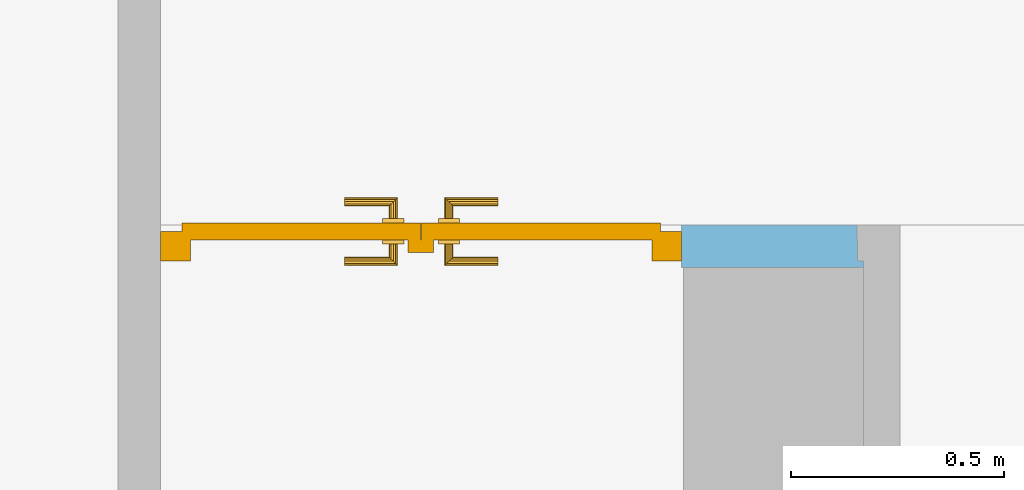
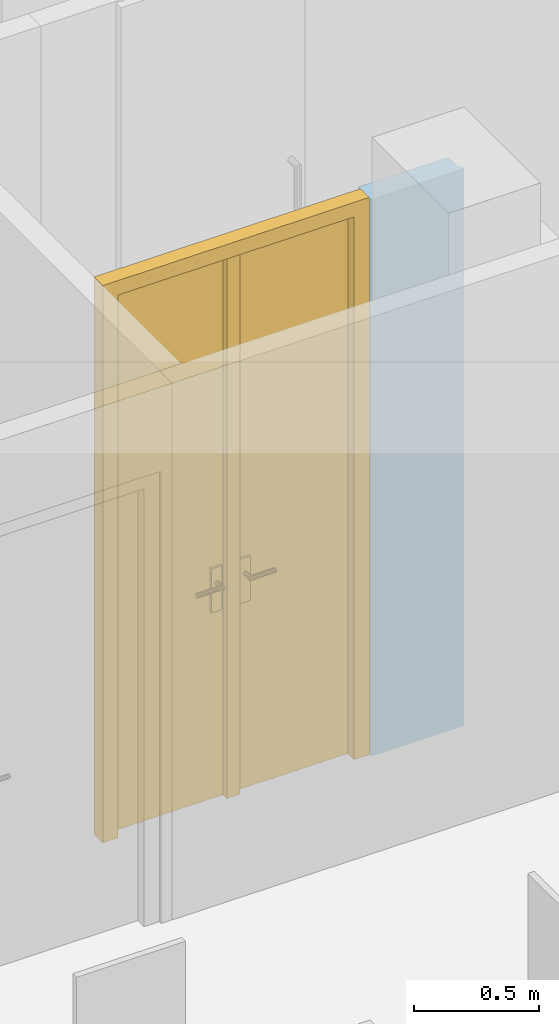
"""IFC4 building model written with IfcOpenShell, lengths in metres."""

from ifc_helpers import new_model, entity, si_unit, converted_unit, derived_unit, frame, origin, origin_with_axes, place, context, subcontext, project, spatial, polyline, outline, extrude, faceted_brep, source, transform, mapped, material, layer, layer_set, layer_usage, element, fill, save


model = new_model("IFC4")

# Units and contexts
model_context = context("Model", 3, precision=1e-05, world=origin())
body_context = subcontext(model_context, "Body", "Model", "MODEL_VIEW")
ifc_project = project(units=[si_unit("LENGTHUNIT", "METRE"), si_unit("AREAUNIT", "SQUARE_METRE"), si_unit("VOLUMEUNIT", "CUBIC_METRE"), si_unit("MASSUNIT", "GRAM", prefix="KILO"), converted_unit("PLANEANGLEUNIT", "DEGREE", entity("IfcPlaneAngleMeasure", 0.0174532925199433), si_unit("PLANEANGLEUNIT", "RADIAN"), dimensions=[0, 0, 0, 0, 0, 0, 0]), derived_unit("THERMALTRANSMITTANCEUNIT", [(si_unit("POWERUNIT", "WATT"), 1), (si_unit("THERMODYNAMICTEMPERATUREUNIT", "KELVIN"), -1), (si_unit("LENGTHUNIT", "METRE"), -2)]), derived_unit("VOLUMETRICFLOWRATEUNIT", [(si_unit("LENGTHUNIT", "METRE"), 3), (converted_unit("TIMEUNIT", "hour", entity("IfcTimeMeasure", 3600.0), si_unit("TIMEUNIT", "SECOND"), dimensions=[0, 0, 1, 0, 0, 0, 0]), -1), (si_unit("LENGTHUNIT", "METRE"), -1)])], contexts=[model_context])

# Building, storeys
building_placement = place(None, origin())
building = spatial("IfcBuilding", under=ifc_project, at=building_placement, Name="HABITATGE PLURIFAMILIAR", CompositionType="ELEMENT")
storey_1_placement = place(building_placement, frame((0.0, 0.0, 9.26)))
storey_1 = spatial("IfcBuildingStorey", under=building, at=storey_1_placement, Name="PLANTA SEGONA", CompositionType="ELEMENT", Elevation=9.26)
storey_2_placement = place(storey_1_placement, frame((0.0, 0.0, 6.25)))
storey_2 = spatial("IfcBuildingStorey", under=storey_1, at=storey_2_placement, Name="NOU", CompositionType="PARTIAL")

# Wall, opening, door
ifc_material = material()
ifc_layer = layer(ifc_material, 0.1)
ifc_layer_set = layer_set([ifc_layer])
ifc_layer_usage = layer_usage(ifc_layer_set, "AXIS2", "POSITIVE", 0.0)
wall_placement = place(storey_2_placement, frame((406.07517066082, 24.2294598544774, -6.35), z_axis=(0.0, 0.0, 1.0), x_axis=(-1.0, 0.0, 0.0)))
wall = element("IfcWall", 1, at=wall_placement, inside=storey_2, material=ifc_layer_usage, Name="Evans P2", context=body_context, shape_type="SweptSolid", body=[
    extrude(outline(polyline([(-1.63818587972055, -0.1), (0.0, -0.1), (0.0, 0.0), (-1.65348393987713, 0.0), (-1.65348393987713, -0.015804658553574), (-1.63999999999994, -0.015804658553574), (-1.63818587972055, -0.1)])), frame((1.63818587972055, 0.1, 0.0), z_axis=(0.0, 0.0, 1.0), x_axis=(1.0, 0.0, 0.0)), (0.0, 0.0, 1.0), 2.71),
])
opening_placement = place(wall_placement, frame((1.63818587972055, 0.1, 0.0), z_axis=(0.0, -1.0, 0.0), x_axis=(0.0, 0.0, 1.0)))
opening = element("IfcOpeningElement", 2, at=opening_placement, cuts=wall, Name="Vano puerta", ObjectType="Opening", context=body_context, shape_type="SweptSolid", body=[
    extrude(outline(polyline([(2.71, 1.22593513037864), (2.71, 0.0), (0.0, 0.0), (0.0, 1.22593513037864), (2.71, 1.22593513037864)])), origin_with_axes(), (0.0, 0.0, 1.0), 0.1),
])
shared_shape = source(origin_with_axes(), body_context, "Body", "Brep", [
    faceted_brep([(0.0, 0.07, 2.71), (0.0, 0.07, 0.0), (0.07, 0.07, 0.0), (0.07, 0.07, 2.71), (0.0, 0.0, 0.0), (0.0, 0.0, 2.71), (0.07, 0.0, 2.71), (0.07, 0.0, 0.0)], [[[0, 1, 2, 3]], [[4, 5, 6, 7]], [[1, 0, 5, 4]], [[2, 1, 4, 7]], [[3, 2, 7, 6]], [[0, 3, 6, 5]]], orient=[[False], [False], [False], [False], [False], [False]]),
    faceted_brep([(1.15593513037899, 0.07, 2.71), (1.15593513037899, 0.07, 0.0), (1.22593513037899, 0.07, 0.0), (1.22593513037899, 0.07, 2.71), (1.15593513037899, 0.0, 0.0), (1.15593513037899, 0.0, 2.71), (1.22593513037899, 0.0, 2.71), (1.22593513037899, 0.0, 0.0)], [[[0, 1, 2, 3]], [[4, 5, 6, 7]], [[1, 0, 5, 4]], [[2, 1, 4, 7]], [[3, 2, 7, 6]], [[0, 3, 6, 5]]], orient=[[False], [False], [False], [False], [False], [False]]),
    faceted_brep([(0.07, 0.07, 2.71), (0.07, 0.07, 2.64), (1.15593513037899, 0.07, 2.64), (1.15593513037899, 0.07, 2.71), (0.07, 0.0, 2.64), (0.07, 0.0, 2.71), (1.15593513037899, 0.0, 2.71), (1.15593513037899, 0.0, 2.64)], [[[0, 1, 2, 3]], [[4, 5, 6, 7]], [[1, 0, 5, 4]], [[2, 1, 4, 7]], [[3, 2, 7, 6]], [[0, 3, 6, 5]]], orient=[[False], [False], [False], [False], [False], [False]]),
    faceted_brep([(0.05, 0.09, 2.66), (0.05, 0.09, 0.0), (0.612467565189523, 0.09, 0.0), (0.612467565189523, 0.09, 2.66), (0.05, 0.05, 0.0), (0.05, 0.05, 2.66), (0.612467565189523, 0.05, 2.66), (0.612467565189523, 0.05, 0.0)], [[[0, 1, 2, 3]], [[4, 5, 6, 7]], [[1, 0, 5, 4]], [[2, 1, 4, 7]], [[3, 2, 7, 6]], [[0, 3, 6, 5]]], orient=[[False], [False], [False], [False], [False], [False]]),
    faceted_brep([(0.582467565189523, 0.05, 2.64), (0.582467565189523, 0.05, 0.0), (0.642467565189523, 0.05, 0.0), (0.642467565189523, 0.05, 2.64), (0.582467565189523, 0.02, 0.0), (0.582467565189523, 0.02, 2.64), (0.642467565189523, 0.02, 2.64), (0.642467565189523, 0.02, 0.0)], [[[0, 1, 2, 3]], [[4, 5, 6, 7]], [[1, 0, 5, 4]], [[2, 1, 4, 7]], [[3, 2, 7, 6]], [[0, 3, 6, 5]]], orient=[[False], [False], [False], [False], [False], [False]]),
    faceted_brep([(0.522467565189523, 0.05, 1.125), (0.522467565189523, 0.05, 0.91), (0.572467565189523, 0.05, 0.91), (0.572467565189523, 0.05, 1.125), (0.522467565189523, 0.04, 0.91), (0.522467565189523, 0.04, 1.125), (0.572467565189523, 0.04, 1.125), (0.572467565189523, 0.04, 0.91)], [[[0, 1, 2, 3]], [[4, 5, 6, 7]], [[1, 0, 5, 4]], [[2, 1, 4, 7]], [[3, 2, 7, 6]], [[0, 3, 6, 5]]], orient=[[False], [False], [False], [False], [False], [False]]),
    faceted_brep([(0.547467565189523, 0.04, 1.06), (0.542467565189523, 0.04, 1.05866025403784), (0.538807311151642, 0.04, 1.055), (0.537467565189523, 0.04, 1.05), (0.538807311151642, 0.04, 1.045), (0.542467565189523, 0.04, 1.04133974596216), (0.547467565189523, 0.04, 1.04), (0.552467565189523, 0.04, 1.04133974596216), (0.556127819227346, 0.04, 1.045), (0.557467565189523, 0.04, 1.05), (0.556127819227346, 0.04, 1.055), (0.552467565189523, 0.04, 1.05866025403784), (0.552467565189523, -0.005, 1.05866025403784), (0.547467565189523, 0.0, 1.06), (0.556127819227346, -0.00866025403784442, 1.055), (0.557467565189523, -0.01, 1.05), (0.556127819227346, -0.00866025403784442, 1.045), (0.552467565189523, -0.005, 1.04133974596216), (0.547467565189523, 0.0, 1.04), (0.542467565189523, 0.005, 1.04133974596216), (0.538807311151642, 0.00866025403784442, 1.045), (0.537467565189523, 0.01, 1.05), (0.538807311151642, 0.00866025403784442, 1.055), (0.542467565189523, 0.005, 1.05866025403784), (0.432467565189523, 0.0, 1.06), (0.432467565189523, -0.005, 1.05866025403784), (0.432467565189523, -0.00866025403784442, 1.055), (0.432467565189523, -0.01, 1.05), (0.432467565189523, -0.00866025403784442, 1.045), (0.432467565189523, -0.005, 1.04133974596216), (0.432467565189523, 0.0, 1.04), (0.432467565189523, 0.005, 1.04133974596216), (0.432467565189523, 0.00866025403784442, 1.045), (0.432467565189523, 0.01, 1.05), (0.432467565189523, 0.00866025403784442, 1.055), (0.432467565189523, 0.005, 1.05866025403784)], [[[0, 1, 2, 3, 4, 5, 6, 7, 8, 9, 10, 11]], [[0, 11, 12, 13]], [[11, 10, 14, 12]], [[10, 9, 15, 14]], [[9, 8, 16, 15]], [[8, 7, 17, 16]], [[7, 6, 18, 17]], [[6, 5, 19, 18]], [[5, 4, 20, 19]], [[4, 3, 21, 20]], [[3, 2, 22, 21]], [[2, 1, 23, 22]], [[1, 0, 13, 23]], [[24, 25, 26, 27, 28, 29, 30, 31, 32, 33, 34, 35]], [[13, 12, 25, 24]], [[12, 14, 26, 25]], [[14, 15, 27, 26]], [[15, 16, 28, 27]], [[16, 17, 29, 28]], [[17, 18, 30, 29]], [[18, 19, 31, 30]], [[19, 20, 32, 31]], [[20, 21, 33, 32]], [[21, 22, 34, 33]], [[22, 23, 35, 34]], [[23, 13, 24, 35]]], orient=[[False], [False], [False], [False], [False], [False], [False], [False], [False], [False], [False], [False], [False], [False], [False], [False], [False], [False], [False], [False], [False], [False], [False], [False], [False], [False]]),
    faceted_brep([(0.522467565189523, 0.09, 1.125), (0.572467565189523, 0.09, 1.125), (0.572467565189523, 0.09, 0.91), (0.522467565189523, 0.09, 0.91), (0.522467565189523, 0.1, 0.91), (0.572467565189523, 0.1, 0.91), (0.572467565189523, 0.1, 1.125), (0.522467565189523, 0.1, 1.125)], [[[0, 1, 2, 3]], [[4, 5, 6, 7]], [[3, 4, 7, 0]], [[2, 5, 4, 3]], [[1, 6, 5, 2]], [[0, 7, 6, 1]]], orient=[[False], [False], [False], [False], [False], [False]]),
    faceted_brep([(0.547467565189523, 0.1, 1.06), (0.552467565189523, 0.1, 1.05866025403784), (0.556127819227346, 0.1, 1.055), (0.557467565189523, 0.1, 1.05), (0.556127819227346, 0.1, 1.045), (0.552467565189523, 0.1, 1.04133974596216), (0.547467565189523, 0.1, 1.04), (0.542467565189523, 0.1, 1.04133974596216), (0.538807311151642, 0.1, 1.045), (0.537467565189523, 0.1, 1.05), (0.538807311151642, 0.1, 1.055), (0.542467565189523, 0.1, 1.05866025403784), (0.547467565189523, 0.14, 1.06), (0.552467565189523, 0.145, 1.05866025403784), (0.556127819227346, 0.148660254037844, 1.055), (0.557467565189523, 0.15, 1.05), (0.556127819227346, 0.148660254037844, 1.045), (0.552467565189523, 0.145, 1.04133974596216), (0.547467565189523, 0.14, 1.04), (0.542467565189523, 0.135, 1.04133974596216), (0.538807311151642, 0.131339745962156, 1.045), (0.537467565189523, 0.13, 1.05), (0.538807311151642, 0.131339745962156, 1.055), (0.542467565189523, 0.135, 1.05866025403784), (0.432467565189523, 0.14, 1.06), (0.432467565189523, 0.135, 1.05866025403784), (0.432467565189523, 0.131339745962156, 1.055), (0.432467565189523, 0.13, 1.05), (0.432467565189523, 0.131339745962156, 1.045), (0.432467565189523, 0.135, 1.04133974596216), (0.432467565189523, 0.14, 1.04), (0.432467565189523, 0.145, 1.04133974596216), (0.432467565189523, 0.148660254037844, 1.045), (0.432467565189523, 0.15, 1.05), (0.432467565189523, 0.148660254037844, 1.055), (0.432467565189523, 0.145, 1.05866025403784)], [[[0, 1, 2, 3, 4, 5, 6, 7, 8, 9, 10, 11]], [[0, 12, 13, 1]], [[1, 13, 14, 2]], [[2, 14, 15, 3]], [[3, 15, 16, 4]], [[4, 16, 17, 5]], [[5, 17, 18, 6]], [[6, 18, 19, 7]], [[7, 19, 20, 8]], [[8, 20, 21, 9]], [[9, 21, 22, 10]], [[10, 22, 23, 11]], [[11, 23, 12, 0]], [[24, 25, 26, 27, 28, 29, 30, 31, 32, 33, 34, 35]], [[12, 24, 35, 13]], [[13, 35, 34, 14]], [[14, 34, 33, 15]], [[15, 33, 32, 16]], [[16, 32, 31, 17]], [[17, 31, 30, 18]], [[18, 30, 29, 19]], [[19, 29, 28, 20]], [[20, 28, 27, 21]], [[21, 27, 26, 22]], [[22, 26, 25, 23]], [[23, 25, 24, 12]]], orient=[[False], [False], [False], [False], [False], [False], [False], [False], [False], [False], [False], [False], [False], [False], [False], [False], [False], [False], [False], [False], [False], [False], [False], [False], [False], [False]]),
    faceted_brep([(0.613467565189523, 0.09, 2.66), (0.613467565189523, 0.09, 0.0), (1.17593513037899, 0.09, 0.0), (1.17593513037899, 0.09, 2.66), (0.613467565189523, 0.05, 0.0), (0.613467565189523, 0.05, 2.66), (1.17593513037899, 0.05, 2.66), (1.17593513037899, 0.05, 0.0)], [[[0, 1, 2, 3]], [[4, 5, 6, 7]], [[1, 0, 5, 4]], [[2, 1, 4, 7]], [[3, 2, 7, 6]], [[0, 3, 6, 5]]], orient=[[False], [False], [False], [False], [False], [False]]),
    faceted_brep([(0.653467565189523, 0.05, 1.125), (0.653467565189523, 0.05, 0.91), (0.703467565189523, 0.05, 0.91), (0.703467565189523, 0.05, 1.125), (0.653467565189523, 0.04, 0.91), (0.653467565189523, 0.04, 1.125), (0.703467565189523, 0.04, 1.125), (0.703467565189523, 0.04, 0.91)], [[[0, 1, 2, 3]], [[4, 5, 6, 7]], [[1, 0, 5, 4]], [[2, 1, 4, 7]], [[3, 2, 7, 6]], [[0, 3, 6, 5]]], orient=[[False], [False], [False], [False], [False], [False]]),
    faceted_brep([(0.678467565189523, 0.04, 1.06), (0.673467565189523, 0.04, 1.05866025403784), (0.669807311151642, 0.04, 1.055), (0.668467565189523, 0.04, 1.05), (0.669807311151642, 0.04, 1.045), (0.673467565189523, 0.04, 1.04133974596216), (0.678467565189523, 0.04, 1.04), (0.683467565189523, 0.04, 1.04133974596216), (0.687127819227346, 0.04, 1.045), (0.688467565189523, 0.04, 1.05), (0.687127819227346, 0.04, 1.055), (0.683467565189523, 0.04, 1.05866025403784), (0.678467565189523, 0.0, 1.06), (0.673467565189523, -0.005, 1.05866025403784), (0.669807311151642, -0.00866025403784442, 1.055), (0.668467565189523, -0.01, 1.05), (0.669807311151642, -0.00866025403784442, 1.045), (0.673467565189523, -0.005, 1.04133974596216), (0.678467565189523, 0.0, 1.04), (0.683467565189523, 0.005, 1.04133974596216), (0.687127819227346, 0.00866025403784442, 1.045), (0.688467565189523, 0.01, 1.05), (0.687127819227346, 0.00866025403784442, 1.055), (0.683467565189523, 0.005, 1.05866025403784), (0.793467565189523, 0.0, 1.06), (0.793467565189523, 0.005, 1.05866025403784), (0.793467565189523, 0.00866025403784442, 1.055), (0.793467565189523, 0.01, 1.05), (0.793467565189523, 0.00866025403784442, 1.045), (0.793467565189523, 0.005, 1.04133974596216), (0.793467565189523, 0.0, 1.04), (0.793467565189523, -0.005, 1.04133974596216), (0.793467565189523, -0.00866025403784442, 1.045), (0.793467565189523, -0.01, 1.05), (0.793467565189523, -0.00866025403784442, 1.055), (0.793467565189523, -0.005, 1.05866025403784)], [[[0, 1, 2, 3, 4, 5, 6, 7, 8, 9, 10, 11]], [[0, 12, 13, 1]], [[1, 13, 14, 2]], [[2, 14, 15, 3]], [[3, 15, 16, 4]], [[4, 16, 17, 5]], [[5, 17, 18, 6]], [[6, 18, 19, 7]], [[7, 19, 20, 8]], [[8, 20, 21, 9]], [[9, 21, 22, 10]], [[10, 22, 23, 11]], [[11, 23, 12, 0]], [[24, 25, 26, 27, 28, 29, 30, 31, 32, 33, 34, 35]], [[12, 24, 35, 13]], [[13, 35, 34, 14]], [[14, 34, 33, 15]], [[15, 33, 32, 16]], [[16, 32, 31, 17]], [[17, 31, 30, 18]], [[18, 30, 29, 19]], [[19, 29, 28, 20]], [[20, 28, 27, 21]], [[21, 27, 26, 22]], [[22, 26, 25, 23]], [[23, 25, 24, 12]]], orient=[[False], [False], [False], [False], [False], [False], [False], [False], [False], [False], [False], [False], [False], [False], [False], [False], [False], [False], [False], [False], [False], [False], [False], [False], [False], [False]]),
    faceted_brep([(0.653467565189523, 0.09, 1.125), (0.703467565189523, 0.09, 1.125), (0.703467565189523, 0.09, 0.91), (0.653467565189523, 0.09, 0.91), (0.653467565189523, 0.1, 0.91), (0.703467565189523, 0.1, 0.91), (0.703467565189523, 0.1, 1.125), (0.653467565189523, 0.1, 1.125)], [[[0, 1, 2, 3]], [[4, 5, 6, 7]], [[3, 4, 7, 0]], [[2, 5, 4, 3]], [[1, 6, 5, 2]], [[0, 7, 6, 1]]], orient=[[False], [False], [False], [False], [False], [False]]),
    faceted_brep([(0.678467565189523, 0.1, 1.06), (0.683467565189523, 0.1, 1.05866025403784), (0.687127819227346, 0.1, 1.055), (0.688467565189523, 0.1, 1.05), (0.687127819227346, 0.1, 1.045), (0.683467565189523, 0.1, 1.04133974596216), (0.678467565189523, 0.1, 1.04), (0.673467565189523, 0.1, 1.04133974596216), (0.669807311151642, 0.1, 1.045), (0.668467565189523, 0.1, 1.05), (0.669807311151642, 0.1, 1.055), (0.673467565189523, 0.1, 1.05866025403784), (0.673467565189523, 0.145, 1.05866025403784), (0.678467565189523, 0.14, 1.06), (0.669807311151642, 0.148660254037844, 1.055), (0.668467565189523, 0.15, 1.05), (0.669807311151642, 0.148660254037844, 1.045), (0.673467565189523, 0.145, 1.04133974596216), (0.678467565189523, 0.14, 1.04), (0.683467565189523, 0.135, 1.04133974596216), (0.687127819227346, 0.131339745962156, 1.045), (0.688467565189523, 0.13, 1.05), (0.687127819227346, 0.131339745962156, 1.055), (0.683467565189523, 0.135, 1.05866025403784), (0.793467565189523, 0.14, 1.06), (0.793467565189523, 0.145, 1.05866025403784), (0.793467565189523, 0.148660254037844, 1.055), (0.793467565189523, 0.15, 1.05), (0.793467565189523, 0.148660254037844, 1.045), (0.793467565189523, 0.145, 1.04133974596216), (0.793467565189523, 0.14, 1.04), (0.793467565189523, 0.135, 1.04133974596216), (0.793467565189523, 0.131339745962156, 1.045), (0.793467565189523, 0.13, 1.05), (0.793467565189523, 0.131339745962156, 1.055), (0.793467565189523, 0.135, 1.05866025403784)], [[[0, 1, 2, 3, 4, 5, 6, 7, 8, 9, 10, 11]], [[0, 11, 12, 13]], [[11, 10, 14, 12]], [[10, 9, 15, 14]], [[9, 8, 16, 15]], [[8, 7, 17, 16]], [[7, 6, 18, 17]], [[6, 5, 19, 18]], [[5, 4, 20, 19]], [[4, 3, 21, 20]], [[3, 2, 22, 21]], [[2, 1, 23, 22]], [[1, 0, 13, 23]], [[24, 25, 26, 27, 28, 29, 30, 31, 32, 33, 34, 35]], [[13, 12, 25, 24]], [[12, 14, 26, 25]], [[14, 15, 27, 26]], [[15, 16, 28, 27]], [[16, 17, 29, 28]], [[17, 18, 30, 29]], [[18, 19, 31, 30]], [[19, 20, 32, 31]], [[20, 21, 33, 32]], [[21, 22, 34, 33]], [[22, 23, 35, 34]], [[23, 13, 24, 35]]], orient=[[False], [False], [False], [False], [False], [False], [False], [False], [False], [False], [False], [False], [False], [False], [False], [False], [False], [False], [False], [False], [False], [False], [False], [False], [False], [False]]),
])
door_placement = place(opening_placement, frame((0.0, 0.0, 0.015), z_axis=(1.0, 0.0, 0.0), x_axis=(0.0, 1.0, 0.0)))
door = element("IfcDoor", 3, at=door_placement, inside=storey_2, Name="Porta P2", OperationType="USERDEFINED", OverallHeight=2.71, OverallWidth=1.22594, PredefinedType="DOOR", context=body_context, shape_type="MappedRepresentation", body=[
    mapped(shared_shape, transform((0.0, 0.0, 0.0), x_axis=(1.0, 0.0, 0.0), y_axis=(0.0, 1.0, 0.0), z_axis=(0.0, 0.0, 1.0), scale=1.0)),
])
fill(opening, door)

save(model, "model.ifc")
